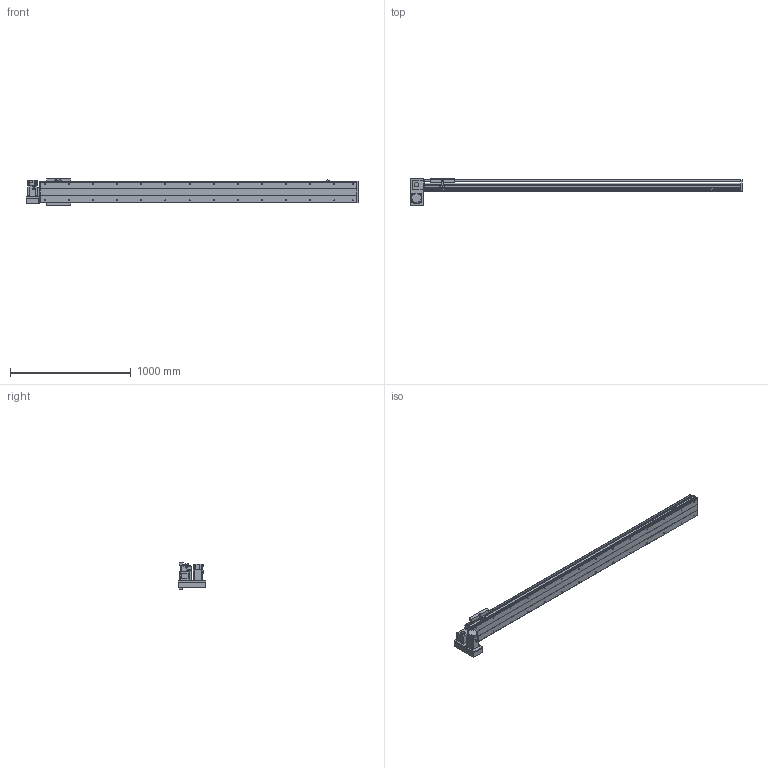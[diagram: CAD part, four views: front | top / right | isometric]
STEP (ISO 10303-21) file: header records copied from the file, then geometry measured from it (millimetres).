
FILE_DESCRIPTION(/* description */ ('STEP AP214'),/* implementation_level */ '2;1');
FILE_NAME(/* name */ 'PBS200-P40-S2250-LD-T75-C1-N(0)',/* time_stamp */ '2022-06-11T08:46:04+02:00',/* author */ ('License CC BY-ND 4.0'),/* organization */ ('CADENAS'),/* preprocessor_version */ 'ST-DEVELOPER v18.102',/* originating_system */ 'PARTsolutions',/* authorisation */ ' ');
FILE_SCHEMA (('AUTOMOTIVE_DESIGN {1 0 10303 214 3 1 1}'));
Length unit declared in the file: millimetre
Products named in the file (7): PBS200-P40-S2250-LD-T75-C1-N(0); PBS200_sensor; PBS200_plant; PBS200_sliser; T75-p1; PBS200T-LD_motors; PBS200-S2250()_body
Assembly tree (8 placements, depth 2):
  PBS200-P40-S2250-LD-T75-C1-N(0)
    PBS200_sensor  x3
    PBS200_plant
    PBS200_sliser
    T75-p1
    PBS200T-LD_motors
    PBS200-S2250()_body
Bounding box: 2750 x 230 x 221 mm (x, y, z)
Volume: 19042941.2 mm3; surface area: 3050142.4 mm2
Topology: 8 solids, 8 shells, 956 faces, 2434 edges, 1584 vertices
Faces by surface type: plane 586, cylinder 310, cone 60
Full cylindrical faces by diameter (mm): 2.459 x6, 3.242 x4, 4.5 x6, 4.917 x4, 5 x6, 6 x7, 6.6 x8, 6.647 x32, 8 x6, 10 x4, 12 x8, 38 x2, 40 x1, 70 x1
Entity records: 25301 total; most frequent: DIRECTION 4471, CARTESIAN_POINT 4300, ORIENTED_EDGE 4054, EDGE_CURVE 2027, AXIS2_PLACEMENT_3D 1579, VERTEX_POINT 1408, LINE 1313, VECTOR 1313
